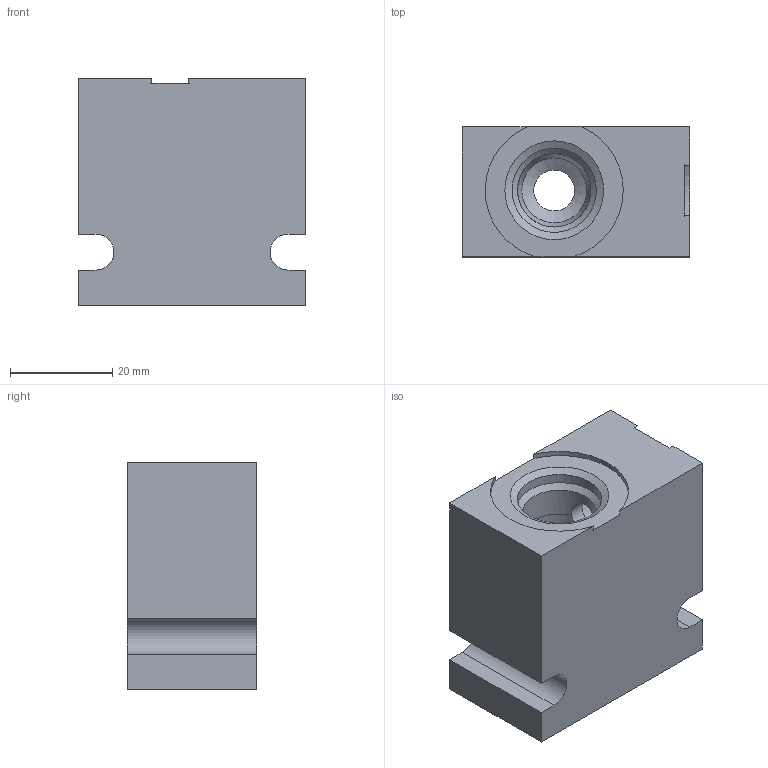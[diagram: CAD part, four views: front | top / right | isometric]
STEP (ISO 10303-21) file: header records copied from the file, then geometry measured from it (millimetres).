
FILE_DESCRIPTION( ( 'Unknown' ), '1' );
FILE_NAME( 'G:/Graphic Design/Graphic Design 2/Data Sheets/Delta Bodies/3_STP/B-DMAA2.stp', 'Unknown', ( 'Unknown' ), ( 'Unknown' ), 'PSStep 16.0.42', 'Unknown', ' ' );
FILE_SCHEMA( ( 'AUTOMOTIVE_DESIGN { 1 0 10303 214 1 1 1 1 }' ) );
Length unit declared in the file: millimetre
Products named in the file (1): 1
Bounding box: 44.5 x 25.4 x 44.5 mm (x, y, z)
Surface area: 10997.1 mm2 (no closed solid volume)
Topology: 0 solids, 82 shells, 82 faces, 414 edges, 395 vertices
Faces by surface type: plane 58, cylinder 18, cone 6
Full cylindrical faces by diameter (mm): 0.2 x2, 6.3 x1, 8 x1, 11.5 x4, 12.7 x1, 14.348 x2, 16.48 x1, 22.22 x1
Entity records: 4484 total; most frequent: CARTESIAN_POINT 1119, DIRECTION 464, ORIENTED_EDGE 382, EDGE_CURVE 382, VERTEX_POINT 382, LINE 162, VECTOR 162, B_SPLINE_CURVE_WITH_KNOTS 152
